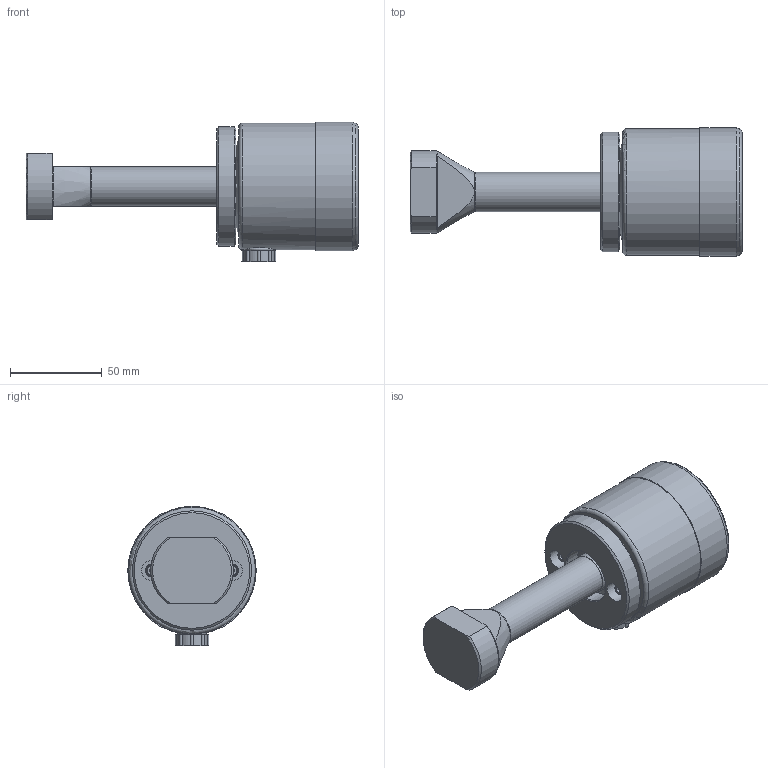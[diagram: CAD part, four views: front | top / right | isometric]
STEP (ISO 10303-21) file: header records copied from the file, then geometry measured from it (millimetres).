
FILE_DESCRIPTION(/* description */ (''),/* implementation_level */ '2;1');
FILE_NAME(/* name */ 'S:\EASCN Vault\Designs\Standard Part\MOULDCLAMPS\MHC\MHC-70\MHC-70-22-XX_(20200410).stp',/* time_stamp */ '2020-04-10T13:13:28+08:00',/* author */ ('yue.yang'),/* organization */ (''),/* preprocessor_version */ 'ST-DEVELOPER v17',/* originating_system */ 'Autodesk Inventor 2019',/* authorisation */ '');
FILE_SCHEMA (('AUTOMOTIVE_DESIGN { 1 0 10303 214 3 1 1 }'));
Length unit declared in the file: millimetre
Products named in the file (1): MHC-70-22-XX_Shrinkwrap_1
Bounding box: 181 x 70 x 76 mm (x, y, z)
Volume: 395711.3 mm3; surface area: 60869.7 mm2
Topology: 11 solids, 11 shells, 136 faces, 350 edges, 243 vertices
Faces by surface type: plane 52, cylinder 49, cone 24, torus 9, sphere 2
Full cylindrical faces by diameter (mm): 3 x2, 5.2 x2, 5.5 x2, 6 x2, 7 x2, 10.8 x1, 11 x2, 11.445 x1, 13.157 x1, 16.1 x1, 17.1 x1, 18 x1, 20 x1, 21.5 x1, 21.95 x1, 30 x1, 42 x1, 60 x1, 65 x1, 69 x1, 70 x1
Entity records: 4652 total; most frequent: CARTESIAN_POINT 987, DIRECTION 763, ORIENTED_EDGE 692, EDGE_CURVE 346, AXIS2_PLACEMENT_3D 331, VERTEX_POINT 243, CIRCLE 194, EDGE_LOOP 159
